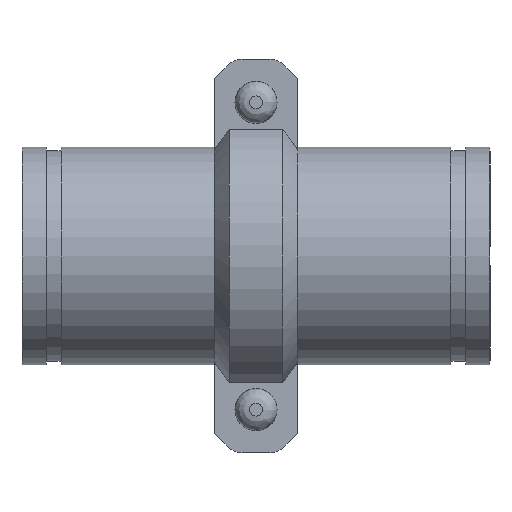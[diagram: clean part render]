
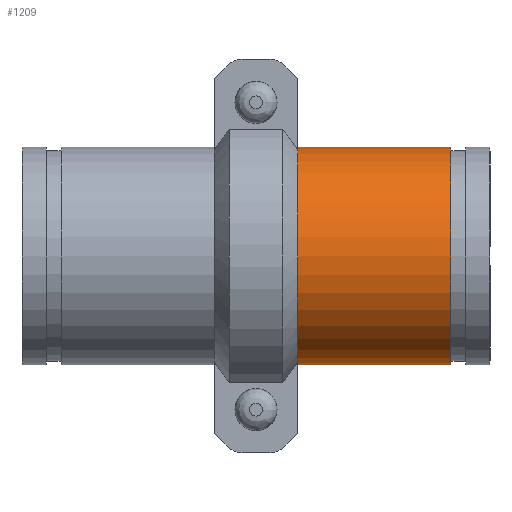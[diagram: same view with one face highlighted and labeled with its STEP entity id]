
A CAD part, front view. The second image highlights one B-rep face of the part: STEP entity #1209.
In plain terms, the highlighted cylindrical face has radius 70.65 mm (diameter 141.3 mm), a full revolution.
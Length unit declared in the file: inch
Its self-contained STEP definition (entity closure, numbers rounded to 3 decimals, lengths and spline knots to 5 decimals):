
#48=LINE('',#1929,#135);
#135=VECTOR('',#1570,2.7815);
#222=CYLINDRICAL_SURFACE('',#1395,2.7815);
#267=FACE_OUTER_BOUND('',#340,.T.);
#340=EDGE_LOOP('',(#797,#798,#799,#800,#801,#802));
#432=CIRCLE('',#1393,2.7815);
#433=CIRCLE('',#1394,2.7815);
#434=CIRCLE('',#1396,2.7815);
#435=CIRCLE('',#1397,2.7815);
#500=VERTEX_POINT('',#1920);
#501=VERTEX_POINT('',#1921);
#502=VERTEX_POINT('',#1925);
#503=VERTEX_POINT('',#1926);
#617=EDGE_CURVE('',#500,#501,#432,.T.);
#618=EDGE_CURVE('',#501,#500,#433,.T.);
#619=EDGE_CURVE('',#502,#503,#434,.T.);
#620=EDGE_CURVE('',#503,#502,#435,.T.);
#621=EDGE_CURVE('',#503,#501,#48,.T.);
#797=ORIENTED_EDGE('',*,*,#619,.F.);
#798=ORIENTED_EDGE('',*,*,#620,.F.);
#799=ORIENTED_EDGE('',*,*,#621,.T.);
#800=ORIENTED_EDGE('',*,*,#618,.T.);
#801=ORIENTED_EDGE('',*,*,#617,.T.);
#802=ORIENTED_EDGE('',*,*,#621,.F.);
#1209=ADVANCED_FACE('',(#267),#222,.T.);
#1393=AXIS2_PLACEMENT_3D('',#1922,#1560,#1561);
#1394=AXIS2_PLACEMENT_3D('',#1923,#1562,#1563);
#1395=AXIS2_PLACEMENT_3D('',#1924,#1564,#1565);
#1396=AXIS2_PLACEMENT_3D('',#1927,#1566,#1567);
#1397=AXIS2_PLACEMENT_3D('',#1928,#1568,#1569);
#1560=DIRECTION('center_axis',(-1.,0.,0.));
#1561=DIRECTION('ref_axis',(0.,0.,1.));
#1562=DIRECTION('center_axis',(-1.,0.,0.));
#1563=DIRECTION('ref_axis',(0.,0.,1.));
#1564=DIRECTION('center_axis',(-1.,0.,0.));
#1565=DIRECTION('ref_axis',(0.,1.,0.));
#1566=DIRECTION('center_axis',(-1.,0.,0.));
#1567=DIRECTION('ref_axis',(0.,0.,1.));
#1568=DIRECTION('center_axis',(-1.,0.,0.));
#1569=DIRECTION('ref_axis',(0.,0.,1.));
#1570=DIRECTION('',(1.,0.,0.));
#1920=CARTESIAN_POINT('',(1.985,2.7815,0.));
#1921=CARTESIAN_POINT('',(1.985,-2.7815,0.));
#1922=CARTESIAN_POINT('Origin',(1.985,0.,0.));
#1923=CARTESIAN_POINT('Origin',(1.985,0.,0.));
#1924=CARTESIAN_POINT('Origin',(0.,0.,
0.));
#1925=CARTESIAN_POINT('',(-1.985,2.7815,0.));
#1926=CARTESIAN_POINT('',(-1.985,-2.7815,0.));
#1927=CARTESIAN_POINT('Origin',(-1.985,0.,0.));
#1928=CARTESIAN_POINT('Origin',(-1.985,0.,0.));
#1929=CARTESIAN_POINT('',(0.,-2.7815,0.));
